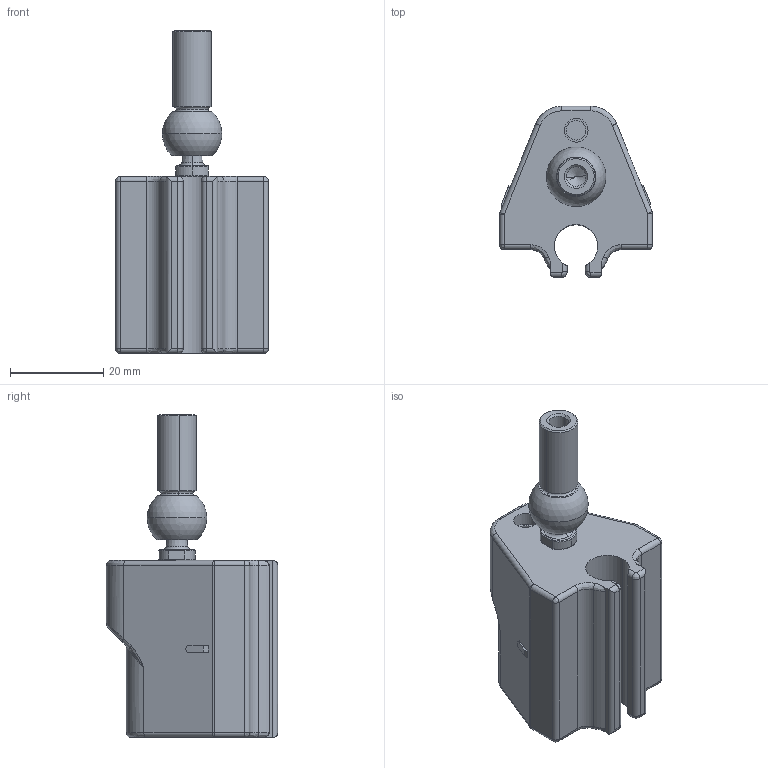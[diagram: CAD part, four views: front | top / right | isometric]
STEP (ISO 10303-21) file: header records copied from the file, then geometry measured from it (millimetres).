
FILE_DESCRIPTION (( 'STEP AP203' ), '1' );
FILE_NAME ('PCUR220x.STEP', '2018-12-17T13:23:58', ( '' ), ( '' ), 'SwSTEP 2.0', 'SolidWorks 2019', '' );
FILE_SCHEMA (( 'CONFIG_CONTROL_DESIGN' ));
Length unit declared in the file: millimetre
Products named in the file (1): PCUR220x
Bounding box: 32.8 x 36.75 x 69.33 mm (x, y, z)
Volume: 28439.8 mm3; surface area: 9869.1 mm2
Topology: 3 solids, 4 shells, 191 faces, 438 edges, 257 vertices
Faces by surface type: cylinder 74, plane 50, bspline 30, torus 20, cone 12, sphere 5
Entity records: 6082 total; most frequent: CARTESIAN_POINT 1893, DIRECTION 891, ORIENTED_EDGE 836, EDGE_CURVE 418, AXIS2_PLACEMENT_3D 359, VERTEX_POINT 252, EDGE_LOOP 208, CIRCLE 197
